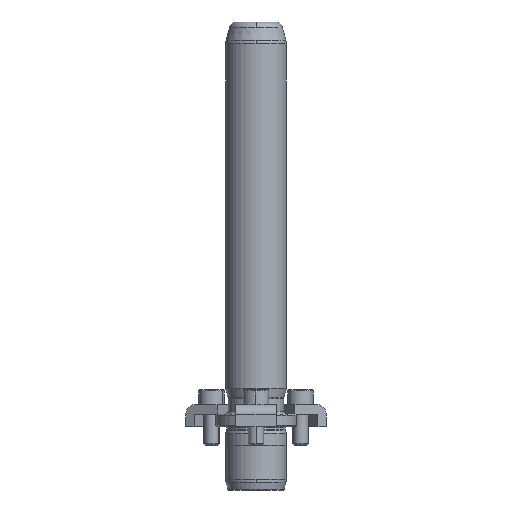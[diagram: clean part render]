
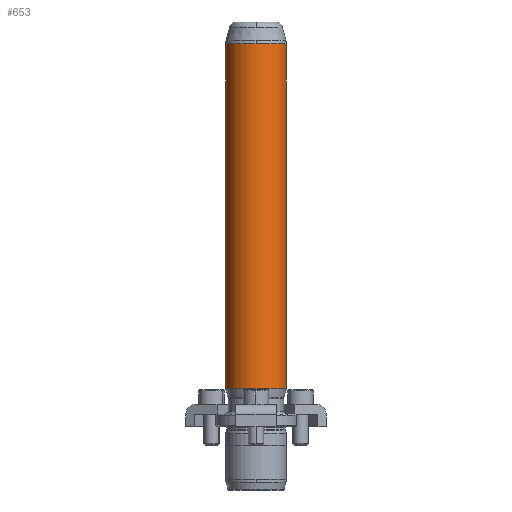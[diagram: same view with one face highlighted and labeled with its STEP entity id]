
A CAD part, front view. The second image highlights one B-rep face of the part: STEP entity #653.
In plain terms, the highlighted cylindrical face has radius 12 mm (diameter 24 mm), a partial arc.
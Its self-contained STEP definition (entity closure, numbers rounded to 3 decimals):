
#566=CARTESIAN_POINT('',(0.0,-12.,151.342));
#567=VERTEX_POINT('',#566);
#594=CARTESIAN_POINT('',(-12.0,0.,151.342));
#595=VERTEX_POINT('',#594);
#603=CARTESIAN_POINT('',(0.0,0.,151.342));
#604=DIRECTION('',(0.0,0.0,1.0));
#605=DIRECTION('',(1.0,0.0,0.0));
#606=AXIS2_PLACEMENT_3D('',#603,#604,#605);
#607=CIRCLE('',#606,12.0);
#608=EDGE_CURVE('',#595,#567,#607,.T.);
#613=CARTESIAN_POINT('',(0.0,0.,83.171));
#614=DIRECTION('',(0.0,0.,1.0));
#615=DIRECTION('',(1.0,0.0,0.0));
#616=AXIS2_PLACEMENT_3D('',#613,#614,#615);
#617=CYLINDRICAL_SURFACE('',#616,12.0);
#618=CARTESIAN_POINT('',(12.0,0.,151.342));
#619=VERTEX_POINT('',#618);
#620=CARTESIAN_POINT('',(12.0,0.,15.0));
#621=VERTEX_POINT('',#620);
#622=CARTESIAN_POINT('',(12.0,0.,151.342));
#623=DIRECTION('',(0.0,0.0,-1.0));
#624=VECTOR('',#623,136.342);
#625=LINE('',#622,#624);
#626=EDGE_CURVE('',#619,#621,#625,.T.);
#627=ORIENTED_EDGE('',*,*,#626,.F.);
#628=CARTESIAN_POINT('',(0.0,0.,151.342));
#629=DIRECTION('',(0.0,0.0,1.0));
#630=DIRECTION('',(1.0,0.0,0.0));
#631=AXIS2_PLACEMENT_3D('',#628,#629,#630);
#632=CIRCLE('',#631,12.0);
#633=EDGE_CURVE('',#567,#619,#632,.T.);
#634=ORIENTED_EDGE('',*,*,#633,.F.);
#635=ORIENTED_EDGE('',*,*,#608,.F.);
#636=CARTESIAN_POINT('',(-12.,0.,15.0));
#637=VERTEX_POINT('',#636);
#638=CARTESIAN_POINT('',(-12.0,0.,151.342));
#639=DIRECTION('',(0.0,0.0,-1.0));
#640=VECTOR('',#639,136.342);
#641=LINE('',#638,#640);
#642=EDGE_CURVE('',#595,#637,#641,.T.);
#643=ORIENTED_EDGE('',*,*,#642,.T.);
#644=CARTESIAN_POINT('',(0.0,0.,15.0));
#645=DIRECTION('',(0.0,0.0,1.0));
#646=DIRECTION('',(1.0,0.0,0.0));
#647=AXIS2_PLACEMENT_3D('',#644,#645,#646);
#648=CIRCLE('',#647,12.0);
#649=EDGE_CURVE('',#637,#621,#648,.T.);
#650=ORIENTED_EDGE('',*,*,#649,.T.);
#651=EDGE_LOOP('',(#627,#634,#635,#643,#650));
#652=FACE_OUTER_BOUND('',#651,.T.);
#653=ADVANCED_FACE('',(#652),#617,.T.);
